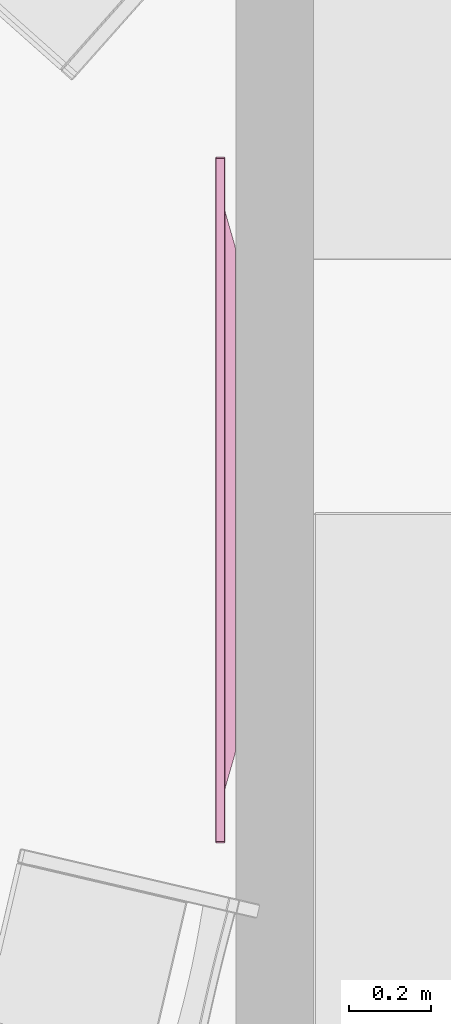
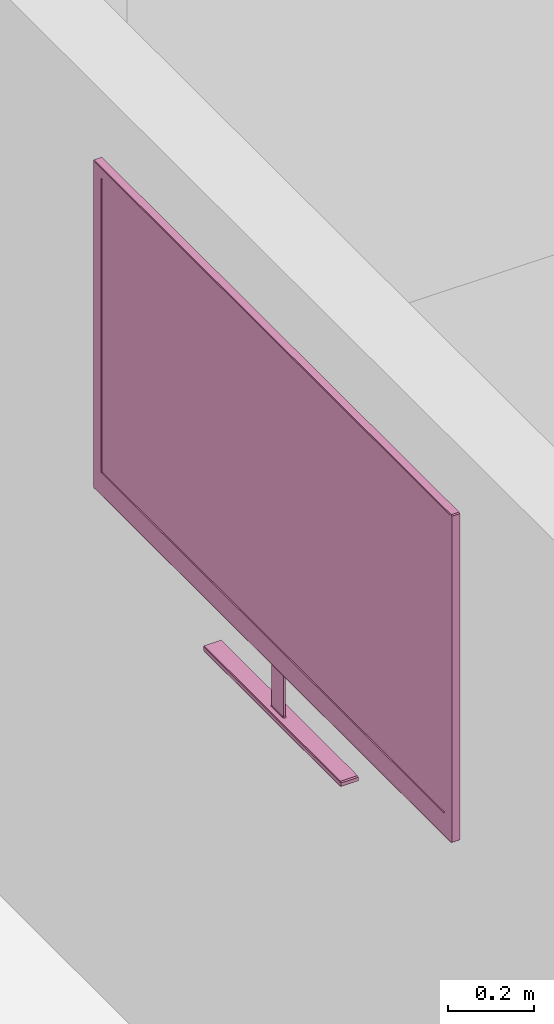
# One storey, part 23 of 25: 1 furnishing.
"""IFC2X3 building model written with IfcOpenShell, lengths in metres."""

from ifc_helpers import new_model, si_unit, direction, frame, origin_with_axes, place, context, project, spatial, faceted_brep, type_object, element, save


model = new_model("IFC2X3")

# Units and contexts
model_context = context("Model", 3, precision=1e-05, world=origin_with_axes(), true_north=direction((0.996, -0.093, 0.0)))
ifc_project = project(units=[si_unit("LENGTHUNIT", "METRE"), si_unit("AREAUNIT", "SQUARE_METRE")], contexts=[model_context])

# Site, building, storey, space
site_placement = place(None, origin_with_axes())
site = spatial("IfcSite", under=ifc_project, at=site_placement, Name="Site", CompositionType="ELEMENT")
building_placement = place(site_placement, origin_with_axes())
building = spatial("IfcBuilding", under=site, at=building_placement, Name="Building", CompositionType="ELEMENT")
storey_placement = place(building_placement, frame((0.0, 0.0, 0.0500001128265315), z_axis=(0.0, 0.0, 1.0), x_axis=(1.0, 0.0, 0.0)))
storey = spatial("IfcBuildingStorey", under=building, at=storey_placement, Name="Story 0", CompositionType="ELEMENT", Elevation=0.0499999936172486)
space_placement = place(storey_placement, frame((14.3044468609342, 7.25731168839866, 0.0), z_axis=(0.0, 0.0, 1.0), x_axis=(1.0, 0.0, 0.0)))
space = spatial("IfcSpace", under=storey, at=space_placement, Name="017", CompositionType="ELEMENT", InteriorOrExteriorSpace="INTERNAL")

# Furnishing
furniture_type = type_object("IfcFurnitureType", Name="480b02cc-8d33-4e30-88e8-dae07005ddd7")
furnishing_placement = place(space_placement, frame((8.59559281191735, 2.02205099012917, 1.88084943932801), z_axis=(0.0, 0.0, 1.00000000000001), x_axis=(-1.00000000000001, 0.0, 0.0)))
element("IfcFurnishingElement", 1, at=furnishing_placement, inside=space, type_object=furniture_type, Name="Television", ObjectType="Television", context=model_context, shape_type="Brep", body=[
    faceted_brep([(0.0175, -0.7913, -0.3209), (0.0175, 0.7913, -0.3209), (0.0175, -0.7945, -0.3179), (0.0175, -0.7945, 0.5031), (0.0175, -0.7945, -0.3179), (0.0175, -0.7913, 0.5061), (0.0175, 0.7913, 0.5061), (0.0175, -0.7913, 0.5061), (0.0175, 0.7945, 0.5031), (0.0175, -0.7913, 0.5061), (0.0175, -0.7945, -0.3179), (0.0175, 0.7945, 0.5031), (0.0175, -0.7945, -0.3179), (0.0175, 0.7913, -0.3209), (0.0175, 0.7945, 0.5031), (0.0175, 0.7913, -0.3209), (0.0175, 0.7945, -0.3179), (0.0175, 0.7945, 0.5031), (0.0018, -0.8345, 0.5399), (0.0018, -0.8345, -0.387), (0.0231, -0.8345, 0.5399), (0.0231, -0.8345, -0.387), (0.0231, -0.8345, 0.5399), (0.0018, -0.8345, -0.387), (0.0018, 0.8345, -0.387), (0.0018, 0.8345, 0.5399), (0.0231, 0.8345, -0.387), (0.0231, 0.8345, 0.5399), (0.0231, 0.8345, -0.387), (0.0018, 0.8345, 0.5399), (0.0018, 0.8314, 0.5427), (0.0018, -0.8314, 0.5427), (0.0231, 0.8314, 0.5427), (0.0231, -0.8314, 0.5427), (0.0231, 0.8314, 0.5427), (0.0018, -0.8314, 0.5427), (0.0087, -0.0288, -0.3564), (0.0037, -0.0288, -0.3564), (0.0087, -0.0288, -0.5242), (0.0037, -0.0288, -0.5242), (0.0087, -0.0288, -0.5242), (0.0037, -0.0288, -0.3564), (0.0098, 0.0228, -0.3564), (0.0098, -0.0257, -0.3564), (0.0098, 0.0228, -0.5242), (0.0098, -0.0257, -0.5242), (0.0098, 0.0228, -0.5242), (0.0098, -0.0257, -0.3564), (0.0037, 0.0259, -0.3564), (0.0087, 0.0259, -0.3564), (0.0037, 0.0259, -0.5242), (0.0087, 0.0259, -0.5242), (0.0037, 0.0259, -0.5242), (0.0087, 0.0259, -0.3564), (-0.0243, 0.6117, -0.2184), (-0.0243, -0.6117, -0.2184), (-0.0243, 0.6117, 0.3713), (-0.0243, -0.6117, 0.3713), (-0.0243, 0.6117, 0.3713), (-0.0243, -0.6117, -0.2184), (0.0026, 0.0228, -0.5242), (0.0026, -0.0257, -0.5242), (0.0026, 0.0228, -0.3564), (0.0026, -0.0257, -0.3564), (0.0026, 0.0228, -0.3564), (0.0026, -0.0257, -0.5242), (0.0231, -0.8314, -0.3898), (0.0018, -0.8314, -0.3898), (0.0231, 0.8314, -0.3898), (0.0018, 0.8314, -0.3898), (0.0231, 0.8314, -0.3898), (0.0018, -0.8314, -0.3898), (-0.023, -0.3191, -0.5427), (-0.023, 0.3163, -0.5427), (0.0232, -0.3191, -0.5427), (0.0232, 0.3163, -0.5427), (0.0232, -0.3191, -0.5427), (-0.023, 0.3163, -0.5427), (0.0242, -0.7988, -0.3294), (0.0242, -0.8295, -0.387), (0.0242, 0.7988, -0.3294), (0.0242, 0.8295, -0.387), (0.0242, 0.7988, -0.3294), (0.0242, -0.8295, -0.387), (0.0242, -0.8038, 0.5106), (0.0242, -0.8314, 0.5359), (0.0242, -0.8038, -0.3259), (0.0242, -0.8314, -0.3776), (0.0242, -0.8038, -0.3259), (0.0242, -0.8314, 0.5359), (0.0242, 0.7994, 0.5146), (0.0242, 0.827, 0.5399), (0.0242, -0.7994, 0.5146), (0.0242, -0.827, 0.5399), (0.0242, -0.7994, 0.5146), (0.0242, 0.827, 0.5399), (0.0242, 0.8314, -0.3776), (0.0242, 0.8314, 0.5359), (0.0242, 0.8038, -0.3259), (0.0242, 0.8038, 0.5106), (0.0242, 0.8038, -0.3259), (0.0242, 0.8314, 0.5359), (0.0175, -0.7913, -0.3209), (0.0231, -0.7965, -0.3257), (0.0175, 0.7913, -0.3209), (0.0231, 0.7965, -0.3257), (0.0175, 0.7913, -0.3209), (0.0231, -0.7965, -0.3257), (0.0175, -0.7945, 0.5031), (0.0231, -0.7997, 0.5079), (0.0175, -0.7945, -0.3179), (0.0231, -0.7997, -0.3227), (0.0175, -0.7945, -0.3179), (0.0231, -0.7997, 0.5079), (0.0175, 0.7913, 0.5061), (0.0231, 0.7965, 0.5109), (0.0175, -0.7913, 0.5061), (0.0231, -0.7965, 0.5109), (0.0175, -0.7913, 0.5061), (0.0231, 0.7965, 0.5109), (0.0175, 0.7945, -0.3179), (0.0231, 0.7997, -0.3227), (0.0175, 0.7945, 0.5031), (0.0231, 0.7997, 0.5079), (0.0175, 0.7945, 0.5031), (0.0231, 0.7997, -0.3227), (0.0007, -0.7044, -0.2733), (0.0007, -0.8314, -0.3833), (0.0007, -0.7044, 0.4262), (0.0007, -0.8314, 0.5361), (0.0007, -0.7044, 0.4262), (0.0007, -0.8314, -0.3833), (0.0007, 0.7001, -0.2774), (0.0007, 0.8267, -0.387), (0.0007, -0.7001, -0.2774), (0.0007, -0.8267, -0.387), (0.0007, -0.7001, -0.2774), (0.0007, 0.8267, -0.387), (0.0007, 0.7044, 0.4262), (0.0007, 0.8314, 0.5361), (0.0007, 0.7044, -0.2733), (0.0007, 0.8314, -0.3833), (0.0007, 0.7044, -0.2733), (0.0007, 0.8314, 0.5361), (0.0007, -0.7001, 0.4303), (0.0007, -0.8267, 0.5399), (0.0007, 0.7001, 0.4303), (0.0007, 0.8267, 0.5399), (0.0007, 0.7001, 0.4303), (0.0007, -0.8267, 0.5399), (-0.0236, -0.6172, 0.3724), (-0.0236, -0.6172, -0.2196), (0.0, -0.6989, 0.4227), (0.0, -0.6989, -0.2698), (0.0, -0.6989, 0.4227), (-0.0236, -0.6172, -0.2196), (-0.0234, -0.6134, -0.2231), (-0.0234, 0.6134, -0.2231), (-0.0002, -0.6941, -0.2727), (-0.0002, 0.6941, -0.2727), (-0.0002, -0.6941, -0.2727), (-0.0234, 0.6134, -0.2231), (-0.0236, 0.6172, -0.2196), (-0.0236, 0.6172, 0.3724), (0.0, 0.6989, -0.2698), (0.0, 0.6989, 0.4227), (0.0, 0.6989, -0.2698), (-0.0236, 0.6172, 0.3724), (-0.0234, 0.6134, 0.376), (-0.0234, -0.6134, 0.376), (-0.0002, 0.6941, 0.4256), (-0.0002, -0.6941, 0.4256), (-0.0002, 0.6941, 0.4256), (-0.0234, -0.6134, 0.376), (0.0243, 0.3163, -0.5399), (0.0243, 0.3163, -0.53), (0.0243, -0.3191, -0.5399), (0.0243, -0.3191, -0.53), (0.0243, -0.3191, -0.5399), (0.0243, 0.3163, -0.53), (-0.023, 0.3194, -0.5399), (-0.023, 0.3194, -0.53), (0.0232, 0.3194, -0.5399), (0.0232, 0.3194, -0.53), (0.0232, 0.3194, -0.5399), (-0.023, 0.3194, -0.53), (-0.0241, -0.3191, -0.5399), (-0.0241, -0.3191, -0.53), (-0.0241, 0.3163, -0.5399), (-0.0241, 0.3163, -0.53), (-0.0241, 0.3163, -0.5399), (-0.0241, -0.3191, -0.53), (0.0232, -0.3222, -0.5399), (0.0232, -0.3222, -0.53), (-0.023, -0.3222, -0.5399), (-0.023, -0.3222, -0.53), (-0.023, -0.3222, -0.5399), (0.0232, -0.3222, -0.53), (-0.0227, -0.3191, -0.5272), (0.023, -0.3191, -0.5272), (0.0035, -0.0318, -0.527), (0.0088, -0.0318, -0.527), (0.0035, -0.0318, -0.527), (0.023, -0.3191, -0.5272), (0.0015, 0.0255, -0.527), (-0.023, 0.2945, -0.5272), (0.0015, -0.0284, -0.527), (-0.023, -0.2973, -0.5272), (0.0015, -0.0284, -0.527), (-0.023, 0.2945, -0.5272), (0.0088, 0.029, -0.527), (0.023, 0.3163, -0.5272), (0.0035, 0.029, -0.527), (-0.0227, 0.3163, -0.5272), (0.0035, 0.029, -0.527), (0.023, 0.3163, -0.5272), (0.0109, -0.0285, -0.527), (0.0232, -0.2767, -0.5271), (0.0109, 0.0257, -0.527), (0.0232, 0.2738, -0.5271), (0.0109, 0.0257, -0.527), (0.0232, -0.2767, -0.5271), (0.021, -0.8162, -0.3372), (0.021, 0.8162, -0.3372), (0.021, -0.8162, 0.5224), (0.021, 0.8162, 0.5224), (0.021, -0.8162, 0.5224), (0.021, 0.8162, -0.3372), (0.0242, -0.827, 0.5399), (0.0231, -0.8314, 0.5427), (0.0242, -0.8314, 0.5359), (0.0231, -0.8345, 0.5399), (0.0242, -0.8314, 0.5359), (0.0231, -0.8314, 0.5427), (0.0007, 0.8267, 0.5399), (0.0018, 0.8314, 0.5427), (0.0007, 0.8314, 0.5361), (0.0018, 0.8345, 0.5399), (0.0007, 0.8314, 0.5361), (0.0018, 0.8314, 0.5427), (0.0242, 0.8314, 0.5359), (0.0231, 0.8345, 0.5399), (0.0242, 0.827, 0.5399), (0.0231, 0.8314, 0.5427), (0.0242, 0.827, 0.5399), (0.0231, 0.8345, 0.5399), (0.0035, -0.0318, -0.527), (0.0037, -0.0288, -0.5242), (0.0015, -0.0284, -0.527), (0.0026, -0.0257, -0.5242), (0.0015, -0.0284, -0.527), (0.0037, -0.0288, -0.5242), (0.0088, -0.0318, -0.527), (0.0109, -0.0285, -0.527), (0.0087, -0.0288, -0.5242), (0.0098, -0.0257, -0.5242), (0.0087, -0.0288, -0.5242), (0.0109, -0.0285, -0.527), (0.0088, 0.029, -0.527), (0.0087, 0.0259, -0.5242), (0.0109, 0.0257, -0.527), (0.0098, 0.0228, -0.5242), (0.0109, 0.0257, -0.527), (0.0087, 0.0259, -0.5242), (-0.0234, -0.6134, 0.376), (-0.0243, -0.6117, 0.3713), (-0.0236, -0.6172, 0.3724), (0.0035, 0.029, -0.527), (0.0015, 0.0255, -0.527), (0.0037, 0.0259, -0.5242), (0.0026, 0.0228, -0.5242), (0.0037, 0.0259, -0.5242), (0.0015, 0.0255, -0.527), (0.0007, -0.8267, -0.387), (0.0018, -0.8314, -0.3898), (0.0007, -0.8314, -0.3833), (0.0018, -0.8345, -0.387), (0.0007, -0.8314, -0.3833), (0.0018, -0.8314, -0.3898), (0.0242, -0.8314, -0.3776), (0.0231, -0.8345, -0.387), (0.0242, -0.8295, -0.387), (0.0231, -0.8314, -0.3898), (0.0242, -0.8295, -0.387), (0.0231, -0.8345, -0.387), (0.0232, -0.3222, -0.5399), (0.0232, -0.3191, -0.5427), (0.0243, -0.3191, -0.5399), (0.0242, 0.8314, -0.3776), (0.0242, 0.8295, -0.387), (0.0231, 0.8345, -0.387), (0.0231, 0.8314, -0.3898), (0.0231, 0.8345, -0.387), (0.0242, 0.8295, -0.387), (0.0231, -0.7997, -0.3227), (0.0242, -0.8038, -0.3259), (0.0231, -0.7965, -0.3257), (0.0242, -0.7988, -0.3294), (0.0231, -0.7965, -0.3257), (0.0242, -0.8038, -0.3259), (0.0231, -0.7965, 0.5109), (0.0242, -0.7994, 0.5146), (0.0231, -0.7997, 0.5079), (0.0242, -0.8038, 0.5106), (0.0231, -0.7997, 0.5079), (0.0242, -0.7994, 0.5146), (0.0231, 0.7997, 0.5079), (0.0242, 0.8038, 0.5106), (0.0231, 0.7965, 0.5109), (0.0242, 0.7994, 0.5146), (0.0231, 0.7965, 0.5109), (0.0242, 0.8038, 0.5106), (0.0231, 0.7997, -0.3227), (0.0231, 0.7965, -0.3257), (0.0242, 0.8038, -0.3259), (0.0242, 0.7988, -0.3294), (0.0242, 0.8038, -0.3259), (0.0231, 0.7965, -0.3257), (0.0007, -0.8267, 0.5399), (0.0007, -0.8314, 0.5361), (0.0018, -0.8314, 0.5427), (0.0018, -0.8345, 0.5399), (0.0018, -0.8314, 0.5427), (0.0007, -0.8314, 0.5361), (-0.0002, -0.6941, 0.4256), (0.0, -0.6989, 0.4227), (0.0007, -0.7001, 0.4303), (0.0007, -0.7044, 0.4262), (0.0007, -0.7001, 0.4303), (0.0, -0.6989, 0.4227), (-0.0002, -0.6941, -0.2727), (0.0007, -0.7001, -0.2774), (0.0, -0.6989, -0.2698), (0.0007, -0.7044, -0.2733), (0.0, -0.6989, -0.2698), (0.0007, -0.7001, -0.2774), (0.0007, 0.8267, -0.387), (0.0007, 0.8314, -0.3833), (0.0018, 0.8314, -0.3898), (0.0018, 0.8345, -0.387), (0.0018, 0.8314, -0.3898), (0.0007, 0.8314, -0.3833), (-0.0002, 0.6941, -0.2727), (0.0, 0.6989, -0.2698), (0.0007, 0.7001, -0.2774), (0.0007, 0.7044, -0.2733), (0.0007, 0.7001, -0.2774), (0.0, 0.6989, -0.2698), (-0.0002, 0.6941, 0.4256), (0.0007, 0.7001, 0.4303), (0.0, 0.6989, 0.4227), (0.0007, 0.7044, 0.4262), (0.0, 0.6989, 0.4227), (0.0007, 0.7001, 0.4303), (-0.0234, -0.6134, -0.2231), (-0.0236, -0.6172, -0.2196), (-0.0243, -0.6117, -0.2184), (-0.0236, 0.6172, -0.2196), (-0.0234, 0.6134, -0.2231), (-0.0243, 0.6117, -0.2184), (-0.0234, 0.6134, 0.376), (-0.0236, 0.6172, 0.3724), (-0.0243, 0.6117, 0.3713), (0.0232, 0.3194, -0.5399), (0.0243, 0.3163, -0.5399), (0.0232, 0.3163, -0.5427), (-0.0241, 0.3163, -0.5399), (-0.023, 0.3194, -0.5399), (-0.023, 0.3163, -0.5427), (-0.023, -0.3222, -0.5399), (-0.0241, -0.3191, -0.5399), (-0.023, -0.3191, -0.5427), (-0.023, -0.2973, -0.5272), (-0.0241, -0.3191, -0.53), (-0.0227, -0.3191, -0.5272), (-0.023, -0.3222, -0.53), (-0.0227, -0.3191, -0.5272), (-0.0241, -0.3191, -0.53), (0.0232, -0.2767, -0.5271), (0.023, -0.3191, -0.5272), (0.0243, -0.3191, -0.53), (0.0232, -0.3222, -0.53), (0.0243, -0.3191, -0.53), (0.023, -0.3191, -0.5272), (-0.023, 0.2945, -0.5272), (-0.0227, 0.3163, -0.5272), (-0.0241, 0.3163, -0.53), (-0.023, 0.3194, -0.53), (-0.0241, 0.3163, -0.53), (-0.0227, 0.3163, -0.5272), (0.0232, 0.3194, -0.53), (0.023, 0.3163, -0.5272), (0.0243, 0.3163, -0.53), (0.0232, 0.2738, -0.5271), (0.0243, 0.3163, -0.53), (0.023, 0.3163, -0.5272), (0.0231, -0.8345, -0.387), (0.0018, -0.8345, -0.387), (0.0231, -0.8314, -0.3898), (0.0018, -0.8314, -0.3898), (0.0231, -0.8314, -0.3898), (0.0018, -0.8345, -0.387), (0.0018, -0.8345, 0.5399), (0.0231, -0.8345, 0.5399), (0.0018, -0.8314, 0.5427), (0.0231, -0.8314, 0.5427), (0.0018, -0.8314, 0.5427), (0.0231, -0.8345, 0.5399), (0.0231, 0.8345, 0.5399), (0.0018, 0.8345, 0.5399), (0.0231, 0.8314, 0.5427), (0.0018, 0.8314, 0.5427), (0.0231, 0.8314, 0.5427), (0.0018, 0.8345, 0.5399), (0.0018, 0.8345, -0.387), (0.0231, 0.8345, -0.387), (0.0018, 0.8314, -0.3898), (0.0231, 0.8314, -0.3898), (0.0018, 0.8314, -0.3898), (0.0231, 0.8345, -0.387), (0.0037, -0.0288, -0.5242), (0.0037, -0.0288, -0.3564), (0.0026, -0.0257, -0.5242), (0.0026, -0.0257, -0.3564), (0.0026, -0.0257, -0.5242), (0.0037, -0.0288, -0.3564), (0.0087, -0.0288, -0.3564), (0.0087, -0.0288, -0.5242), (0.0098, -0.0257, -0.3564), (0.0098, -0.0257, -0.5242), (0.0098, -0.0257, -0.3564), (0.0087, -0.0288, -0.5242), (0.0098, 0.0228, -0.3564), (0.0098, 0.0228, -0.5242), (0.0087, 0.0259, -0.3564), (0.0087, 0.0259, -0.5242), (0.0087, 0.0259, -0.3564), (0.0098, 0.0228, -0.5242), (0.0037, 0.0259, -0.3564), (0.0037, 0.0259, -0.5242), (0.0026, 0.0228, -0.3564), (0.0026, 0.0228, -0.5242), (0.0026, 0.0228, -0.3564), (0.0037, 0.0259, -0.5242), (-0.0243, -0.6117, 0.3713), (-0.0243, -0.6117, -0.2184), (-0.0236, -0.6172, 0.3724), (-0.0236, -0.6172, -0.2196), (-0.0236, -0.6172, 0.3724), (-0.0243, -0.6117, -0.2184), (-0.0243, -0.6117, -0.2184), (-0.0243, 0.6117, -0.2184), (-0.0234, -0.6134, -0.2231), (-0.0234, 0.6134, -0.2231), (-0.0234, -0.6134, -0.2231), (-0.0243, 0.6117, -0.2184), (-0.0243, 0.6117, -0.2184), (-0.0243, 0.6117, 0.3713), (-0.0236, 0.6172, -0.2196), (-0.0236, 0.6172, 0.3724), (-0.0236, 0.6172, -0.2196), (-0.0243, 0.6117, 0.3713), (-0.0243, 0.6117, 0.3713), (-0.0243, -0.6117, 0.3713), (-0.0234, 0.6134, 0.376), (-0.0234, -0.6134, 0.376), (-0.0234, 0.6134, 0.376), (-0.0243, -0.6117, 0.3713), (0.0232, 0.3163, -0.5427), (-0.023, 0.3163, -0.5427), (0.0232, 0.3194, -0.5399), (-0.023, 0.3194, -0.5399), (0.0232, 0.3194, -0.5399), (-0.023, 0.3163, -0.5427), (-0.023, 0.3163, -0.5427), (-0.023, -0.3191, -0.5427), (-0.0241, 0.3163, -0.5399), (-0.0241, -0.3191, -0.5399), (-0.0241, 0.3163, -0.5399), (-0.023, -0.3191, -0.5427), (-0.023, -0.3191, -0.5427), (0.0232, -0.3191, -0.5427), (-0.023, -0.3222, -0.5399), (0.0232, -0.3222, -0.5399), (-0.023, -0.3222, -0.5399), (0.0232, -0.3191, -0.5427), (0.0232, -0.3191, -0.5427), (0.0232, 0.3163, -0.5427), (0.0243, -0.3191, -0.5399), (0.0243, 0.3163, -0.5399), (0.0243, -0.3191, -0.5399), (0.0232, 0.3163, -0.5427), (0.0242, 0.8295, -0.387), (0.0242, -0.8295, -0.387), (0.0231, 0.8314, -0.3898), (0.0231, -0.8314, -0.3898), (0.0231, 0.8314, -0.3898), (0.0242, -0.8295, -0.387), (0.0242, -0.8295, -0.387), (0.0242, -0.7988, -0.3294), (0.0242, -0.8314, -0.3776), (0.0242, -0.8038, -0.3259), (0.0242, -0.8314, -0.3776), (0.0242, -0.7988, -0.3294), (0.0242, -0.8314, -0.3776), (0.0242, -0.8314, 0.5359), (0.0231, -0.8345, -0.387), (0.0231, -0.8345, 0.5399), (0.0231, -0.8345, -0.387), (0.0242, -0.8314, 0.5359), (0.0242, -0.8314, 0.5359), (0.0242, -0.8038, 0.5106), (0.0242, -0.827, 0.5399), (0.0242, -0.7994, 0.5146), (0.0242, -0.827, 0.5399), (0.0242, -0.8038, 0.5106), (0.0242, -0.827, 0.5399), (0.0242, 0.827, 0.5399), (0.0231, -0.8314, 0.5427), (0.0231, 0.8314, 0.5427), (0.0231, -0.8314, 0.5427), (0.0242, 0.827, 0.5399), (0.0242, 0.827, 0.5399), (0.0242, 0.7994, 0.5146), (0.0242, 0.8314, 0.5359), (0.0242, 0.8038, 0.5106), (0.0242, 0.8314, 0.5359), (0.0242, 0.7994, 0.5146), (0.0242, 0.8314, 0.5359), (0.0242, 0.8314, -0.3776), (0.0231, 0.8345, 0.5399), (0.0231, 0.8345, -0.387), (0.0231, 0.8345, 0.5399), (0.0242, 0.8314, -0.3776), (0.0242, 0.8314, -0.3776), (0.0242, 0.8038, -0.3259), (0.0242, 0.8295, -0.387), (0.0242, 0.7988, -0.3294), (0.0242, 0.8295, -0.387), (0.0242, 0.8038, -0.3259), (0.0231, 0.7965, -0.3257), (0.0231, -0.7965, -0.3257), (0.0242, 0.7988, -0.3294), (0.0242, -0.7988, -0.3294), (0.0242, 0.7988, -0.3294), (0.0231, -0.7965, -0.3257), (0.0231, -0.7965, -0.3257), (0.0175, -0.7913, -0.3209), (0.0231, -0.7997, -0.3227), (0.0175, -0.7945, -0.3179), (0.0231, -0.7997, -0.3227), (0.0175, -0.7913, -0.3209), (0.0231, -0.7997, -0.3227), (0.0231, -0.7997, 0.5079), (0.0242, -0.8038, -0.3259), (0.0242, -0.8038, 0.5106), (0.0242, -0.8038, -0.3259), (0.0231, -0.7997, 0.5079), (0.0231, -0.7997, 0.5079), (0.0175, -0.7945, 0.5031), (0.0231, -0.7965, 0.5109), (0.0175, -0.7913, 0.5061), (0.0231, -0.7965, 0.5109), (0.0175, -0.7945, 0.5031), (0.0231, -0.7965, 0.5109), (0.0231, 0.7965, 0.5109), (0.0242, -0.7994, 0.5146), (0.0242, 0.7994, 0.5146), (0.0242, -0.7994, 0.5146), (0.0231, 0.7965, 0.5109), (0.0231, 0.7965, 0.5109), (0.0175, 0.7913, 0.5061), (0.0231, 0.7997, 0.5079), (0.0175, 0.7945, 0.5031), (0.0231, 0.7997, 0.5079), (0.0175, 0.7913, 0.5061), (0.0231, 0.7997, 0.5079), (0.0231, 0.7997, -0.3227), (0.0242, 0.8038, 0.5106), (0.0242, 0.8038, -0.3259), (0.0242, 0.8038, 0.5106), (0.0231, 0.7997, -0.3227), (0.0231, 0.7997, -0.3227), (0.0175, 0.7945, -0.3179), (0.0231, 0.7965, -0.3257), (0.0175, 0.7913, -0.3209), (0.0231, 0.7965, -0.3257), (0.0175, 0.7945, -0.3179), (0.0007, -0.8314, 0.5361), (0.0007, -0.8314, -0.3833), (0.0018, -0.8345, 0.5399), (0.0018, -0.8345, -0.387), (0.0018, -0.8345, 0.5399), (0.0007, -0.8314, -0.3833), (0.0007, -0.8314, -0.3833), (0.0007, -0.7044, -0.2733), (0.0007, -0.8267, -0.387), (0.0007, -0.7001, -0.2774), (0.0007, -0.8267, -0.387), (0.0007, -0.7044, -0.2733), (0.0007, -0.7044, -0.2733), (0.0007, -0.7044, 0.4262), (0.0, -0.6989, -0.2698), (0.0, -0.6989, 0.4227), (0.0, -0.6989, -0.2698), (0.0007, -0.7044, 0.4262), (0.0007, -0.8267, -0.387), (0.0007, 0.8267, -0.387), (0.0018, -0.8314, -0.3898), (0.0018, 0.8314, -0.3898), (0.0018, -0.8314, -0.3898), (0.0007, 0.8267, -0.387), (0.0007, 0.8267, -0.387), (0.0007, 0.7001, -0.2774), (0.0007, 0.8314, -0.3833), (0.0007, 0.7044, -0.2733), (0.0007, 0.8314, -0.3833), (0.0007, 0.7001, -0.2774), (0.0007, 0.7001, -0.2774), (0.0007, -0.7001, -0.2774), (-0.0002, 0.6941, -0.2727), (-0.0002, -0.6941, -0.2727), (-0.0002, 0.6941, -0.2727), (0.0007, -0.7001, -0.2774), (0.0007, 0.8314, -0.3833), (0.0007, 0.8314, 0.5361), (0.0018, 0.8345, -0.387), (0.0018, 0.8345, 0.5399), (0.0018, 0.8345, -0.387), (0.0007, 0.8314, 0.5361), (0.0007, 0.8314, 0.5361), (0.0007, 0.7044, 0.4262), (0.0007, 0.8267, 0.5399), (0.0007, 0.7001, 0.4303), (0.0007, 0.8267, 0.5399), (0.0007, 0.7044, 0.4262), (0.0007, 0.7044, 0.4262), (0.0007, 0.7044, -0.2733), (0.0, 0.6989, 0.4227), (0.0, 0.6989, -0.2698), (0.0, 0.6989, 0.4227), (0.0007, 0.7044, -0.2733), (0.0007, 0.8267, 0.5399), (0.0007, -0.8267, 0.5399), (0.0018, 0.8314, 0.5427), (0.0018, -0.8314, 0.5427), (0.0018, 0.8314, 0.5427), (0.0007, -0.8267, 0.5399), (0.0007, -0.8267, 0.5399), (0.0007, -0.7001, 0.4303), (0.0007, -0.8314, 0.5361), (0.0007, -0.7044, 0.4262), (0.0007, -0.8314, 0.5361), (0.0007, -0.7001, 0.4303), (0.0007, -0.7001, 0.4303), (0.0007, 0.7001, 0.4303), (-0.0002, -0.6941, 0.4256), (-0.0002, 0.6941, 0.4256), (-0.0002, -0.6941, 0.4256), (0.0007, 0.7001, 0.4303), (0.0, -0.6989, -0.2698), (-0.0236, -0.6172, -0.2196), (-0.0002, -0.6941, -0.2727), (-0.0234, -0.6134, -0.2231), (-0.0002, -0.6941, -0.2727), (-0.0236, -0.6172, -0.2196), (-0.0002, 0.6941, -0.2727), (-0.0234, 0.6134, -0.2231), (0.0, 0.6989, -0.2698), (-0.0236, 0.6172, -0.2196), (0.0, 0.6989, -0.2698), (-0.0234, 0.6134, -0.2231), (0.0, 0.6989, 0.4227), (-0.0236, 0.6172, 0.3724), (-0.0002, 0.6941, 0.4256), (-0.0234, 0.6134, 0.376), (-0.0002, 0.6941, 0.4256), (-0.0236, 0.6172, 0.3724), (-0.0002, -0.6941, 0.4256), (-0.0234, -0.6134, 0.376), (0.0, -0.6989, 0.4227), (-0.0236, -0.6172, 0.3724), (0.0, -0.6989, 0.4227), (-0.0234, -0.6134, 0.376), (0.0243, 0.3163, -0.53), (0.0243, 0.3163, -0.5399), (0.0232, 0.3194, -0.53), (0.0232, 0.3194, -0.5399), (0.0232, 0.3194, -0.53), (0.0243, 0.3163, -0.5399), (-0.023, 0.3194, -0.53), (-0.023, 0.3194, -0.5399), (-0.0241, 0.3163, -0.53), (-0.0241, 0.3163, -0.5399), (-0.0241, 0.3163, -0.53), (-0.023, 0.3194, -0.5399), (-0.0241, -0.3191, -0.53), (-0.0241, -0.3191, -0.5399), (-0.023, -0.3222, -0.53), (-0.023, -0.3222, -0.5399), (-0.023, -0.3222, -0.53), (-0.0241, -0.3191, -0.5399), (0.0232, -0.3222, -0.53), (0.0232, -0.3222, -0.5399), (0.0243, -0.3191, -0.53), (0.0243, -0.3191, -0.5399), (0.0243, -0.3191, -0.53), (0.0232, -0.3222, -0.5399), (0.023, -0.3191, -0.5272), (-0.0227, -0.3191, -0.5272), (0.0232, -0.3222, -0.53), (-0.023, -0.3222, -0.53), (0.0232, -0.3222, -0.53), (-0.0227, -0.3191, -0.5272), (-0.0227, -0.3191, -0.5272), (0.0035, -0.0318, -0.527), (-0.023, -0.2973, -0.5272), (0.0015, -0.0284, -0.527), (-0.023, -0.2973, -0.5272), (0.0035, -0.0318, -0.527), (0.0035, -0.0318, -0.527), (0.0088, -0.0318, -0.527), (0.0037, -0.0288, -0.5242), (0.0087, -0.0288, -0.5242), (0.0037, -0.0288, -0.5242), (0.0088, -0.0318, -0.527), (-0.023, -0.2973, -0.5272), (-0.023, 0.2945, -0.5272), (-0.0241, -0.3191, -0.53), (-0.0241, 0.3163, -0.53), (-0.0241, -0.3191, -0.53), (-0.023, 0.2945, -0.5272), (-0.023, 0.2945, -0.5272), (0.0015, 0.0255, -0.527), (-0.0227, 0.3163, -0.5272), (0.0035, 0.029, -0.527), (-0.0227, 0.3163, -0.5272), (0.0015, 0.0255, -0.527), (0.0015, 0.0255, -0.527), (0.0015, -0.0284, -0.527), (0.0026, 0.0228, -0.5242), (0.0026, -0.0257, -0.5242), (0.0026, 0.0228, -0.5242), (0.0015, -0.0284, -0.527), (-0.0227, 0.3163, -0.5272), (0.023, 0.3163, -0.5272), (-0.023, 0.3194, -0.53), (0.0232, 0.3194, -0.53), (-0.023, 0.3194, -0.53), (0.023, 0.3163, -0.5272), (0.023, 0.3163, -0.5272), (0.0088, 0.029, -0.527), (0.0232, 0.2738, -0.5271), (0.0109, 0.0257, -0.527), (0.0232, 0.2738, -0.5271), (0.0088, 0.029, -0.527), (0.0088, 0.029, -0.527), (0.0035, 0.029, -0.527), (0.0087, 0.0259, -0.5242), (0.0037, 0.0259, -0.5242), (0.0087, 0.0259, -0.5242), (0.0035, 0.029, -0.527), (0.0232, 0.2738, -0.5271), (0.0232, -0.2767, -0.5271), (0.0243, 0.3163, -0.53), (0.0243, -0.3191, -0.53), (0.0243, 0.3163, -0.53), (0.0232, -0.2767, -0.5271), (0.0232, -0.2767, -0.5271), (0.0109, -0.0285, -0.527), (0.023, -0.3191, -0.5272), (0.0088, -0.0318, -0.527), (0.023, -0.3191, -0.5272), (0.0109, -0.0285, -0.527), (0.0109, -0.0285, -0.527), (0.0109, 0.0257, -0.527), (0.0098, -0.0257, -0.5242), (0.0098, 0.0228, -0.5242), (0.0098, -0.0257, -0.5242), (0.0109, 0.0257, -0.527)], [[[0, 1, 2]], [[3, 4, 5]], [[6, 7, 8]], [[9, 10, 11]], [[12, 13, 14]], [[15, 16, 17]], [[18, 19, 20]], [[21, 22, 23]], [[24, 25, 26]], [[27, 28, 29]], [[30, 31, 32]], [[33, 34, 35]], [[36, 37, 38]], [[39, 40, 41]], [[42, 43, 44]], [[45, 46, 47]], [[48, 49, 50]], [[51, 52, 53]], [[54, 55, 56]], [[57, 58, 59]], [[60, 61, 62]], [[63, 64, 65]], [[66, 67, 68]], [[69, 70, 71]], [[72, 73, 74]], [[75, 76, 77]], [[78, 79, 80]], [[81, 82, 83]], [[84, 85, 86]], [[87, 88, 89]], [[90, 91, 92]], [[93, 94, 95]], [[96, 97, 98]], [[99, 100, 101]], [[102, 103, 104]], [[105, 106, 107]], [[108, 109, 110]], [[111, 112, 113]], [[114, 115, 116]], [[117, 118, 119]], [[120, 121, 122]], [[123, 124, 125]], [[126, 127, 128]], [[129, 130, 131]], [[132, 133, 134]], [[135, 136, 137]], [[138, 139, 140]], [[141, 142, 143]], [[144, 145, 146]], [[147, 148, 149]], [[150, 151, 152]], [[153, 154, 155]], [[156, 157, 158]], [[159, 160, 161]], [[162, 163, 164]], [[165, 166, 167]], [[168, 169, 170]], [[171, 172, 173]], [[174, 175, 176]], [[177, 178, 179]], [[180, 181, 182]], [[183, 184, 185]], [[186, 187, 188]], [[189, 190, 191]], [[192, 193, 194]], [[195, 196, 197]], [[198, 199, 200]], [[201, 202, 203]], [[204, 205, 206]], [[207, 208, 209]], [[210, 211, 212]], [[213, 214, 215]], [[216, 217, 218]], [[219, 220, 221]], [[222, 223, 224]], [[225, 226, 227]], [[228, 229, 230]], [[231, 232, 233]], [[234, 235, 236]], [[237, 238, 239]], [[240, 241, 242]], [[243, 244, 245]], [[246, 247, 248]], [[249, 250, 251]], [[252, 253, 254]], [[255, 256, 257]], [[258, 259, 260]], [[261, 262, 263]], [[264, 265, 266]], [[267, 268, 269]], [[270, 271, 272]], [[273, 274, 275]], [[276, 277, 278]], [[279, 280, 281]], [[282, 283, 284]], [[285, 286, 287]], [[288, 289, 290]], [[291, 292, 293]], [[294, 295, 296]], [[297, 298, 299]], [[300, 301, 302]], [[303, 304, 305]], [[306, 307, 308]], [[309, 310, 311]], [[312, 313, 314]], [[315, 316, 317]], [[318, 319, 320]], [[321, 322, 323]], [[324, 325, 326]], [[327, 328, 329]], [[330, 331, 332]], [[333, 334, 335]], [[336, 337, 338]], [[339, 340, 341]], [[342, 343, 344]], [[345, 346, 347]], [[348, 349, 350]], [[351, 352, 353]], [[354, 355, 356]], [[357, 358, 359]], [[360, 361, 362]], [[363, 364, 365]], [[366, 367, 368]], [[369, 370, 371]], [[372, 373, 374]], [[375, 376, 377]], [[378, 379, 380]], [[381, 382, 383]], [[384, 385, 386]], [[387, 388, 389]], [[390, 391, 392]], [[393, 394, 395]], [[396, 397, 398]], [[399, 400, 401]], [[402, 403, 404]], [[405, 406, 407]], [[408, 409, 410]], [[411, 412, 413]], [[414, 415, 416]], [[417, 418, 419]], [[420, 421, 422]], [[423, 424, 425]], [[426, 427, 428]], [[429, 430, 431]], [[432, 433, 434]], [[435, 436, 437]], [[438, 439, 440]], [[441, 442, 443]], [[444, 445, 446]], [[447, 448, 449]], [[450, 451, 452]], [[453, 454, 455]], [[456, 457, 458]], [[459, 460, 461]], [[462, 463, 464]], [[465, 466, 467]], [[468, 469, 470]], [[471, 472, 473]], [[474, 475, 476]], [[477, 478, 479]], [[480, 481, 482]], [[483, 484, 485]], [[486, 487, 488]], [[489, 490, 491]], [[492, 493, 494]], [[495, 496, 497]], [[498, 499, 500]], [[501, 502, 503]], [[504, 505, 506]], [[507, 508, 509]], [[510, 511, 512]], [[513, 514, 515]], [[516, 517, 518]], [[519, 520, 521]], [[522, 523, 524]], [[525, 526, 527]], [[528, 529, 530]], [[531, 532, 533]], [[534, 535, 536]], [[537, 538, 539]], [[540, 541, 542]], [[543, 544, 545]], [[546, 547, 548]], [[549, 550, 551]], [[552, 553, 554]], [[555, 556, 557]], [[558, 559, 560]], [[561, 562, 563]], [[564, 565, 566]], [[567, 568, 569]], [[570, 571, 572]], [[573, 574, 575]], [[576, 577, 578]], [[579, 580, 581]], [[582, 583, 584]], [[585, 586, 587]], [[588, 589, 590]], [[591, 592, 593]], [[594, 595, 596]], [[597, 598, 599]], [[600, 601, 602]], [[603, 604, 605]], [[606, 607, 608]], [[609, 610, 611]], [[612, 613, 614]], [[615, 616, 617]], [[618, 619, 620]], [[621, 622, 623]], [[624, 625, 626]], [[627, 628, 629]], [[630, 631, 632]], [[633, 634, 635]], [[636, 637, 638]], [[639, 640, 641]], [[642, 643, 644]], [[645, 646, 647]], [[648, 649, 650]], [[651, 652, 653]], [[654, 655, 656]], [[657, 658, 659]], [[660, 661, 662]], [[663, 664, 665]], [[666, 667, 668]], [[669, 670, 671]], [[672, 673, 674]], [[675, 676, 677]], [[678, 679, 680]], [[681, 682, 683]], [[684, 685, 686]], [[687, 688, 689]], [[690, 691, 692]], [[693, 694, 695]], [[696, 697, 698]], [[699, 700, 701]], [[702, 703, 704]], [[705, 706, 707]], [[708, 709, 710]], [[711, 712, 713]], [[714, 715, 716]], [[717, 718, 719]], [[720, 721, 722]], [[723, 724, 725]], [[726, 727, 728]], [[729, 730, 731]], [[732, 733, 734]], [[735, 736, 737]], [[738, 739, 740]], [[741, 742, 743]], [[744, 745, 746]], [[747, 748, 749]], [[750, 751, 752]], [[753, 754, 755]], [[756, 757, 758]], [[759, 760, 761]], [[762, 763, 764]], [[765, 766, 767]], [[768, 769, 770]], [[771, 772, 773]], [[774, 775, 776]], [[777, 778, 779]]]),
])

save(model, "model.ifc")
